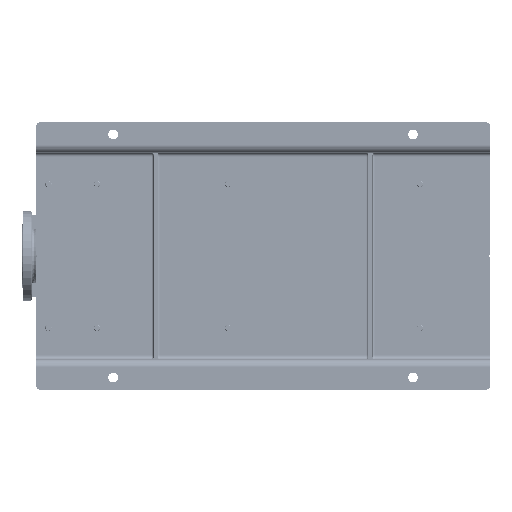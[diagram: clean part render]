
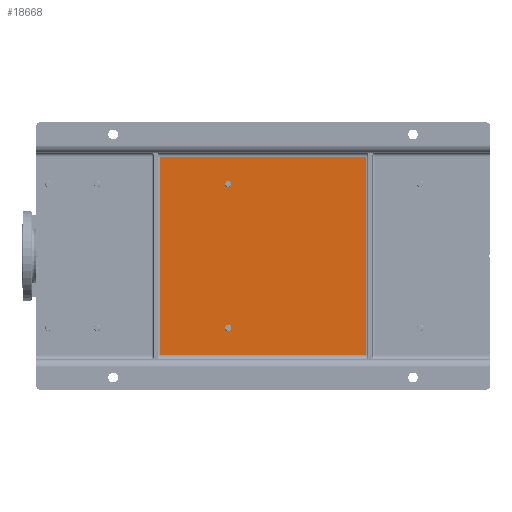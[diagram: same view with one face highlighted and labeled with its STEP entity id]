
A CAD part, front view. The second image highlights one B-rep face of the part: STEP entity #18668.
In plain terms, the highlighted planar face has unit normal (0, -1, 0).
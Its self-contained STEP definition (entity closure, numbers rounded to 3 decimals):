
#1634 = CARTESIAN_POINT ( 'NONE',  ( 508., 65., -466. ) ) ;
#1669 = DIRECTION ( 'NONE',  ( -1., 0., 0. ) ) ;
#2671 = CARTESIAN_POINT ( 'NONE',  ( 152., 65., -482. ) ) ;
#2981 = DIRECTION ( 'NONE',  ( 0., 0., 1. ) ) ;
#5658 = VERTEX_POINT ( 'NONE', #116645 ) ;
#12122 = CIRCLE ( 'NONE', #59286, 8. ) ;
#13438 = ORIENTED_EDGE ( 'NONE', *, *, #152876, .T. ) ;
#16550 = CIRCLE ( 'NONE', #28280, 8. ) ;
#18668 = ADVANCED_FACE ( 'NONE', ( #124853, #123026, #153480 ), #79586, .T. ) ;
#19144 = EDGE_CURVE ( 'NONE', #165305, #63255, #16550, .T. ) ;
#21735 = CARTESIAN_POINT ( 'NONE',  ( 152., 65., -474. ) ) ;
#22002 = ORIENTED_EDGE ( 'NONE', *, *, #148281, .T. ) ;
#26115 = DIRECTION ( 'NONE',  ( 0., 0., 1. ) ) ;
#27934 = CARTESIAN_POINT ( 'NONE',  ( 508., 65., -474. ) ) ;
#28280 = AXIS2_PLACEMENT_3D ( 'NONE', #21735, #138957, #55765 ) ;
#29794 = CARTESIAN_POINT ( 'NONE',  ( 575., 65., -300. ) ) ;
#31375 = DIRECTION ( 'NONE',  ( 0., 0., -1. ) ) ;
#33676 = AXIS2_PLACEMENT_3D ( 'NONE', #27934, #109293, #26115 ) ;
#38353 = CARTESIAN_POINT ( 'NONE',  ( 85., 65., -305. ) ) ;
#42943 = EDGE_CURVE ( 'NONE', #148959, #58044, #71596, .T. ) ;
#48790 = CARTESIAN_POINT ( 'NONE',  ( 575., 65., -815. ) ) ;
#53728 = CARTESIAN_POINT ( 'NONE',  ( 75., 65., -1120. ) ) ;
#55765 = DIRECTION ( 'NONE',  ( 0., 0., -1. ) ) ;
#58044 = VERTEX_POINT ( 'NONE', #48790 ) ;
#59286 = AXIS2_PLACEMENT_3D ( 'NONE', #157962, #73835, #31375 ) ;
#60867 = VERTEX_POINT ( 'NONE', #1634 ) ;
#62811 = AXIS2_PLACEMENT_3D ( 'NONE', #147684, #80132, #64461 ) ;
#63255 = VERTEX_POINT ( 'NONE', #2671 ) ;
#64461 = DIRECTION ( 'NONE',  ( 0., 0., 1. ) ) ;
#65831 = CIRCLE ( 'NONE', #62811, 8. ) ;
#66308 = VECTOR ( 'NONE', #2981, 1000. ) ;
#71596 = LINE ( 'NONE', #144605, #150778 ) ;
#72607 = EDGE_CURVE ( 'NONE', #58044, #171809, #143394, .T. ) ;
#73835 = DIRECTION ( 'NONE',  ( 0., 1., 0. ) ) ;
#77451 = EDGE_LOOP ( 'NONE', ( #22002, #114043 ) ) ;
#79586 = PLANE ( 'NONE',  #117550 ) ;
#80132 = DIRECTION ( 'NONE',  ( 0., 1., 0. ) ) ;
#82706 = CARTESIAN_POINT ( 'NONE',  ( 152., 65., -466. ) ) ;
#83699 = ORIENTED_EDGE ( 'NONE', *, *, #19144, .T. ) ;
#89843 = CARTESIAN_POINT ( 'NONE',  ( 85., 65., -820. ) ) ;
#96427 = EDGE_CURVE ( 'NONE', #171809, #99225, #100514, .T. ) ;
#99225 = VERTEX_POINT ( 'NONE', #38353 ) ;
#100514 = LINE ( 'NONE', #171656, #161524 ) ;
#101505 = EDGE_CURVE ( 'NONE', #63255, #165305, #12122, .T. ) ;
#104668 = DIRECTION ( 'NONE',  ( 0., 0., -1. ) ) ;
#106274 = ORIENTED_EDGE ( 'NONE', *, *, #42943, .T. ) ;
#109293 = DIRECTION ( 'NONE',  ( 0., 1., 0. ) ) ;
#113306 = CIRCLE ( 'NONE', #33676, 8. ) ;
#114043 = ORIENTED_EDGE ( 'NONE', *, *, #130770, .T. ) ;
#116645 = CARTESIAN_POINT ( 'NONE',  ( 508., 65., -482. ) ) ;
#117491 = EDGE_LOOP ( 'NONE', ( #83699, #175139 ) ) ;
#117550 = AXIS2_PLACEMENT_3D ( 'NONE', #53728, #181183, #163711 ) ;
#119490 = ORIENTED_EDGE ( 'NONE', *, *, #72607, .T. ) ;
#123026 = FACE_BOUND ( 'NONE', #117491, .T. ) ;
#124853 = FACE_BOUND ( 'NONE', #77451, .T. ) ;
#127993 = DIRECTION ( 'NONE',  ( 1., 0., 0. ) ) ;
#130653 = CARTESIAN_POINT ( 'NONE',  ( 85., 65., -815. ) ) ;
#130770 = EDGE_CURVE ( 'NONE', #5658, #60867, #113306, .T. ) ;
#137775 = EDGE_LOOP ( 'NONE', ( #13438, #106274, #119490, #145198 ) ) ;
#138957 = DIRECTION ( 'NONE',  ( 0., 1., 0. ) ) ;
#143394 = LINE ( 'NONE', #29794, #66308 ) ;
#144605 = CARTESIAN_POINT ( 'NONE',  ( 75., 65., -815. ) ) ;
#145198 = ORIENTED_EDGE ( 'NONE', *, *, #96427, .T. ) ;
#145987 = CARTESIAN_POINT ( 'NONE',  ( 575., 65., -305. ) ) ;
#146440 = VECTOR ( 'NONE', #104668, 1000. ) ;
#147684 = CARTESIAN_POINT ( 'NONE',  ( 508., 65., -474. ) ) ;
#148281 = EDGE_CURVE ( 'NONE', #60867, #5658, #65831, .T. ) ;
#148959 = VERTEX_POINT ( 'NONE', #130653 ) ;
#150778 = VECTOR ( 'NONE', #127993, 1000. ) ;
#152876 = EDGE_CURVE ( 'NONE', #99225, #148959, #158339, .T. ) ;
#153480 = FACE_OUTER_BOUND ( 'NONE', #137775, .T. ) ;
#157962 = CARTESIAN_POINT ( 'NONE',  ( 152., 65., -474. ) ) ;
#158339 = LINE ( 'NONE', #89843, #146440 ) ;
#161524 = VECTOR ( 'NONE', #1669, 1000. ) ;
#163711 = DIRECTION ( 'NONE',  ( 0., 0., -1. ) ) ;
#165305 = VERTEX_POINT ( 'NONE', #82706 ) ;
#171656 = CARTESIAN_POINT ( 'NONE',  ( 75., 65., -305. ) ) ;
#171809 = VERTEX_POINT ( 'NONE', #145987 ) ;
#175139 = ORIENTED_EDGE ( 'NONE', *, *, #101505, .T. ) ;
#181183 = DIRECTION ( 'NONE',  ( 0., -1., 0. ) ) ;
